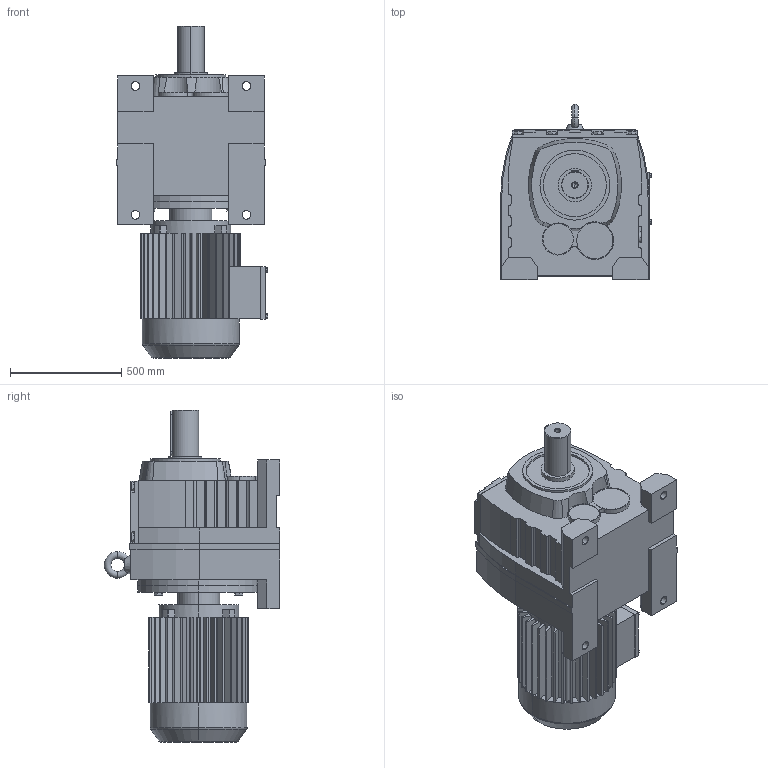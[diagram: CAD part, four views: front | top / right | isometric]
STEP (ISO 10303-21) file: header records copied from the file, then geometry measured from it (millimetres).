
FILE_DESCRIPTION(('Open CASCADE Model'),'2;1');
FILE_NAME('Open CASCADE Shape Model','2021-06-28T17:15:59',('Author'),( 'Open CASCADE'),'Open CASCADE STEP processor 6.3','Open CASCADE 6.3' ,'Unknown');
FILE_SCHEMA(('AUTOMOTIVE_DESIGN_CC2 { 1 2 10303 214 -1 1 5 4 }'));
Length unit declared in the file: millimetre
Products named in the file (3): 1_R167-Y225M; R37‵167_167.step; 萇儂_550_Y225M.step
Assembly tree (2 placements, depth 2):
  1_R167-Y225M
    R37‵167_167.step
    萇儂_550_Y225M.step
Bounding box: 680 x 790 x 1495 mm (x, y, z)
Volume: 304637388 mm3; surface area: 5440436.4 mm2
Topology: 2 solids, 2 shells, 735 faces, 1950 edges, 1261 vertices
Faces by surface type: plane 520, cylinder 185, cone 20, torus 10
Entity records: 51231 total; most frequent: CARTESIAN_POINT 14021, DIRECTION 6488, ORIENTED_EDGE 3896, PCURVE 3896, DEFINITIONAL_REPRESENTATION 3896, LINE 3635, VECTOR 3635, EDGE_CURVE 1948
